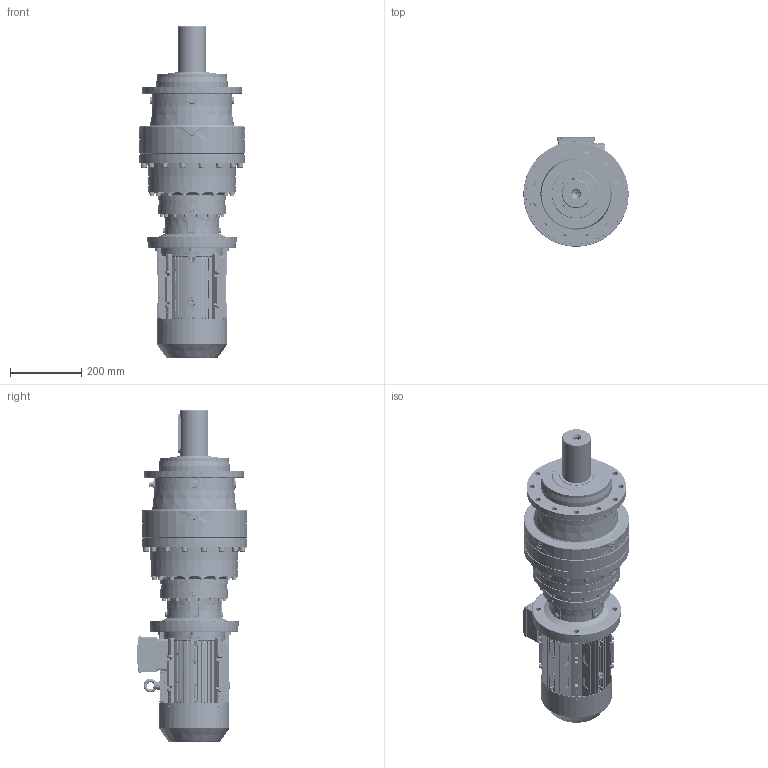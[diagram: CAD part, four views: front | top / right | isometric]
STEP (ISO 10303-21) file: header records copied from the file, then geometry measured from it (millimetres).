
FILE_DESCRIPTION (( 'STEP AP203' ), '1' );
FILE_NAME ('PVL_1903L-MX112M-4.STEP', '2019-05-10T12:50:28', ( '' ), ( '' ), 'SwSTEP 2.0', 'SolidWorks 2012', '' );
FILE_SCHEMA (( 'CONFIG_CONTROL_DESIGN' ));
Products named in the file (19): P19_Varsayìlan; PVL_1903L-MX112M-4; IE3 100 shaft cover; IE3 100 B5 flange; plain parallel keys_GB_CONNECTING_PIECE_KEYS_CSK 8X50; MX3-100L_B5; IE3 100 fan; IE3 100 fan cover; IE3 100 terminal box cover; IE3 100 B3 Shield; IE3 100 Shaft; IE3 100 terminal box base; eyebolts gb_GB_FASTENER_SCREWS_FRS M8-N; PNL_1903L_0_0_A10_B5_ML25A_FL5A_0_0_0_0_0_0_0_0_0_0_0_M1; EK1903L_Varsayìlan; IE3 100 casing; FL5A_Varsayìlan; ML25A_Varsayìlan; 11100B5_Varsayìlan
Assembly tree (19 placements, depth 3):
  PVL_1903L-MX112M-4
    PNL_1903L_0_0_A10_B5_ML25A_FL5A_0_0_0_0_0_0_0_0_0_0_0_M1
      P19_Varsayìlan
      11100B5_Varsayìlan
      ML25A_Varsayìlan
      EK1903L_Varsayìlan
      FL5A_Varsayìlan
    MX3-100L_B5
      IE3 100 casing
      IE3 100 B3 Shield
      IE3 100 Shaft
      eyebolts gb_GB_FASTENER_SCREWS_FRS M8-N
      IE3 100 terminal box base
      IE3 100 terminal box cover
      IE3 100 fan
      IE3 100 fan cover
      plain parallel keys_GB_CONNECTING_PIECE_KEYS_CSK 8X50
      IE3 100 shaft cover  x2
      IE3 100 B5 flange
Bounding box: 295 x 307.5 x 931.11 mm (x, y, z)
Volume: 22981974.1 mm3; surface area: 2135256 mm2
Topology: 26 solids, 28 shells, 7420 faces, 19231 edges, 11826 vertices
Faces by surface type: plane 2660, cylinder 1984, bspline 1818, cone 558, torus 308, sphere 92
Entity records: 292967 total; most frequent: CARTESIAN_POINT 124042, ORIENTED_EDGE 37632, DIRECTION 31644, EDGE_CURVE 18816, AXIS2_PLACEMENT_3D 11896, VERTEX_POINT 11718, EDGE_LOOP 8026, VECTOR 7852
